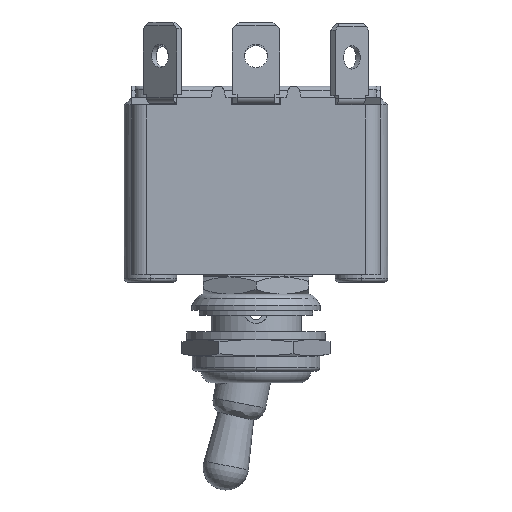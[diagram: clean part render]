
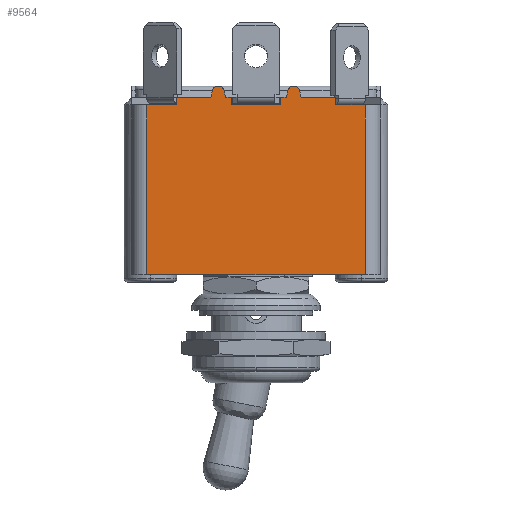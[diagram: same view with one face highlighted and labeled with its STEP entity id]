
A CAD part, front view. The second image highlights one B-rep face of the part: STEP entity #9564.
In plain terms, the highlighted planar face has unit normal (0, -1, 0).
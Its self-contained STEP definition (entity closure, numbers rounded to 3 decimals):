
#417=DIRECTION('',(1.,0.,0.));
#418=VECTOR('',#417,29.);
#419=CARTESIAN_POINT('',(-14.5,-10.75,-23.5));
#420=LINE('',#419,#418);
#457=DIRECTION('',(0.,0.,1.));
#458=VECTOR('',#457,22.5);
#459=CARTESIAN_POINT('',(14.5,-10.75,-23.5));
#460=LINE('',#459,#458);
#995=DIRECTION('',(-1.,0.,0.));
#996=VECTOR('',#995,3.946);
#997=CARTESIAN_POINT('',(-10.554,-10.75,-1.));
#998=LINE('',#997,#996);
#999=DIRECTION('',(0.,0.,1.));
#1000=VECTOR('',#999,1.);
#1001=CARTESIAN_POINT('',(-10.554,-10.75,-1.));
#1002=LINE('',#1001,#1000);
#1003=DIRECTION('',(0.243,0.,0.97));
#1004=VECTOR('',#1003,0.922);
#1005=CARTESIAN_POINT('',(-6.,-10.75,0.));
#1006=LINE('',#1005,#1004);
#1007=CARTESIAN_POINT('',(-5.,-10.75,0.7));
#1008=DIRECTION('',(0.,1.,0.));
#1009=DIRECTION('',(-0.97,0.,0.243));
#1010=AXIS2_PLACEMENT_3D('',#1007,#1008,#1009);
#1012=DIRECTION('',(0.243,0.,-0.97));
#1013=VECTOR('',#1012,0.922);
#1014=CARTESIAN_POINT('',(-4.224,-10.75,0.894));
#1015=LINE('',#1014,#1013);
#1016=DIRECTION('',(0.,0.,1.));
#1017=VECTOR('',#1016,1.);
#1018=CARTESIAN_POINT('',(-3.25,-10.75,-1.));
#1019=LINE('',#1018,#1017);
#1020=DIRECTION('',(-1.,0.,0.));
#1021=VECTOR('',#1020,6.5);
#1022=CARTESIAN_POINT('',(3.25,-10.75,-1.));
#1023=LINE('',#1022,#1021);
#1024=DIRECTION('',(0.,0.,1.));
#1025=VECTOR('',#1024,1.);
#1026=CARTESIAN_POINT('',(3.25,-10.75,-1.));
#1027=LINE('',#1026,#1025);
#1028=DIRECTION('',(0.243,0.,0.97));
#1029=VECTOR('',#1028,0.922);
#1030=CARTESIAN_POINT('',(4.,-10.75,0.));
#1031=LINE('',#1030,#1029);
#1032=CARTESIAN_POINT('',(5.,-10.75,0.7));
#1033=DIRECTION('',(0.,1.,0.));
#1034=DIRECTION('',(-0.97,0.,0.243));
#1035=AXIS2_PLACEMENT_3D('',#1032,#1033,#1034);
#1037=DIRECTION('',(0.243,0.,-0.97));
#1038=VECTOR('',#1037,0.922);
#1039=CARTESIAN_POINT('',(5.776,-10.75,0.894));
#1040=LINE('',#1039,#1038);
#1041=DIRECTION('',(0.,0.,1.));
#1042=VECTOR('',#1041,1.);
#1043=CARTESIAN_POINT('',(10.554,-10.75,-1.));
#1044=LINE('',#1043,#1042);
#1045=DIRECTION('',(-1.,0.,0.));
#1046=VECTOR('',#1045,3.946);
#1047=CARTESIAN_POINT('',(14.5,-10.75,-1.));
#1048=LINE('',#1047,#1046);
#1049=DIRECTION('',(0.,0.,-1.));
#1050=VECTOR('',#1049,22.5);
#1051=CARTESIAN_POINT('',(-14.5,-10.75,-1.));
#1052=LINE('',#1051,#1050);
#1490=DIRECTION('',(-1.,0.,0.));
#1491=VECTOR('',#1490,0.75);
#1492=CARTESIAN_POINT('',(-3.25,-10.75,0.));
#1493=LINE('',#1492,#1491);
#1534=DIRECTION('',(-1.,0.,0.));
#1535=VECTOR('',#1534,0.75);
#1536=CARTESIAN_POINT('',(4.,-10.75,0.));
#1537=LINE('',#1536,#1535);
#1750=DIRECTION('',(-1.,0.,0.));
#1751=VECTOR('',#1750,4.554);
#1752=CARTESIAN_POINT('',(10.554,-10.75,0.));
#1753=LINE('',#1752,#1751);
#2704=DIRECTION('',(-1.,0.,0.));
#2705=VECTOR('',#2704,4.554);
#2706=CARTESIAN_POINT('',(-6.,-10.75,0.));
#2707=LINE('',#2706,#2705);
#7031=CARTESIAN_POINT('',(4.224,-10.75,0.894));
#7032=CARTESIAN_POINT('',(5.776,-10.75,0.894));
#7033=VERTEX_POINT('',#7031);
#7034=VERTEX_POINT('',#7032);
#7035=CARTESIAN_POINT('',(-5.776,-10.75,0.894));
#7036=CARTESIAN_POINT('',(-4.224,-10.75,0.894));
#7037=VERTEX_POINT('',#7035);
#7038=VERTEX_POINT('',#7036);
#7048=CARTESIAN_POINT('',(4.,-10.75,0.));
#7050=VERTEX_POINT('',#7048);
#7052=CARTESIAN_POINT('',(-4.,-10.75,0.));
#7054=VERTEX_POINT('',#7052);
#7085=CARTESIAN_POINT('',(6.,-10.75,0.));
#7086=VERTEX_POINT('',#7085);
#7087=CARTESIAN_POINT('',(-6.,-10.75,0.));
#7088=VERTEX_POINT('',#7087);
#7173=CARTESIAN_POINT('',(3.25,-10.75,0.));
#7175=VERTEX_POINT('',#7173);
#7179=CARTESIAN_POINT('',(-3.25,-10.75,0.));
#7180=VERTEX_POINT('',#7179);
#7185=CARTESIAN_POINT('',(10.554,-10.75,0.));
#7186=VERTEX_POINT('',#7185);
#7201=CARTESIAN_POINT('',(-10.554,-10.75,0.));
#7203=VERTEX_POINT('',#7201);
#7241=CARTESIAN_POINT('',(3.25,-10.75,-1.));
#7242=CARTESIAN_POINT('',(-3.25,-10.75,-1.));
#7243=VERTEX_POINT('',#7241);
#7244=VERTEX_POINT('',#7242);
#7245=CARTESIAN_POINT('',(10.554,-10.75,-1.));
#7246=VERTEX_POINT('',#7245);
#7247=CARTESIAN_POINT('',(-10.554,-10.75,-1.));
#7248=VERTEX_POINT('',#7247);
#7265=CARTESIAN_POINT('',(14.5,-10.75,-1.));
#7267=VERTEX_POINT('',#7265);
#7274=CARTESIAN_POINT('',(-14.5,-10.75,-1.));
#7276=VERTEX_POINT('',#7274);
#7350=CARTESIAN_POINT('',(14.5,-10.75,-23.5));
#7352=VERTEX_POINT('',#7350);
#7361=CARTESIAN_POINT('',(-14.5,-10.75,-23.5));
#7363=VERTEX_POINT('',#7361);
#9520=CARTESIAN_POINT('',(16.5,-10.75,0.));
#9521=DIRECTION('',(0.,-1.,0.));
#9522=DIRECTION('',(-1.,0.,0.));
#9523=AXIS2_PLACEMENT_3D('',#9520,#9521,#9522);
#9524=PLANE('',#9523);
#9525=ORIENTED_EDGE('',*,*,#8911,.F.);
#9526=ORIENTED_EDGE('',*,*,#8880,.F.);
#9528=ORIENTED_EDGE('',*,*,#9527,.F.);
#9530=ORIENTED_EDGE('',*,*,#9529,.F.);
#9532=ORIENTED_EDGE('',*,*,#9531,.T.);
#9534=ORIENTED_EDGE('',*,*,#9533,.F.);
#9536=ORIENTED_EDGE('',*,*,#9535,.T.);
#9538=ORIENTED_EDGE('',*,*,#9537,.T.);
#9540=ORIENTED_EDGE('',*,*,#9539,.T.);
#9542=ORIENTED_EDGE('',*,*,#9541,.F.);
#9544=ORIENTED_EDGE('',*,*,#9543,.F.);
#9546=ORIENTED_EDGE('',*,*,#9545,.F.);
#9548=ORIENTED_EDGE('',*,*,#9547,.T.);
#9550=ORIENTED_EDGE('',*,*,#9549,.F.);
#9552=ORIENTED_EDGE('',*,*,#9551,.T.);
#9554=ORIENTED_EDGE('',*,*,#9553,.T.);
#9556=ORIENTED_EDGE('',*,*,#9555,.T.);
#9558=ORIENTED_EDGE('',*,*,#9557,.F.);
#9560=ORIENTED_EDGE('',*,*,#9559,.F.);
#9561=ORIENTED_EDGE('',*,*,#9482,.F.);
#9562=EDGE_LOOP('',(#9525,#9526,#9528,#9530,#9532,#9534,#9536,#9538,#9540,#9542,
#9544,#9546,#9548,#9550,#9552,#9554,#9556,#9558,#9560,#9561));
#9563=FACE_OUTER_BOUND('',#9562,.F.);
#9564=ADVANCED_FACE('',(#9563),#9524,.T.);
#1011=CIRCLE('',#1010,0.8);
#1036=CIRCLE('',#1035,0.8);
#8880=EDGE_CURVE('',#7363,#7352,#420,.T.);
#8911=EDGE_CURVE('',#7352,#7267,#460,.T.);
#9482=EDGE_CURVE('',#7267,#7246,#1048,.T.);
#9527=EDGE_CURVE('',#7276,#7363,#1052,.T.);
#9529=EDGE_CURVE('',#7248,#7276,#998,.T.);
#9531=EDGE_CURVE('',#7248,#7203,#1002,.T.);
#9533=EDGE_CURVE('',#7088,#7203,#2707,.T.);
#9535=EDGE_CURVE('',#7088,#7037,#1006,.T.);
#9537=EDGE_CURVE('',#7037,#7038,#1011,.T.);
#9539=EDGE_CURVE('',#7038,#7054,#1015,.T.);
#9541=EDGE_CURVE('',#7180,#7054,#1493,.T.);
#9543=EDGE_CURVE('',#7244,#7180,#1019,.T.);
#9545=EDGE_CURVE('',#7243,#7244,#1023,.T.);
#9547=EDGE_CURVE('',#7243,#7175,#1027,.T.);
#9549=EDGE_CURVE('',#7050,#7175,#1537,.T.);
#9551=EDGE_CURVE('',#7050,#7033,#1031,.T.);
#9553=EDGE_CURVE('',#7033,#7034,#1036,.T.);
#9555=EDGE_CURVE('',#7034,#7086,#1040,.T.);
#9557=EDGE_CURVE('',#7186,#7086,#1753,.T.);
#9559=EDGE_CURVE('',#7246,#7186,#1044,.T.);
